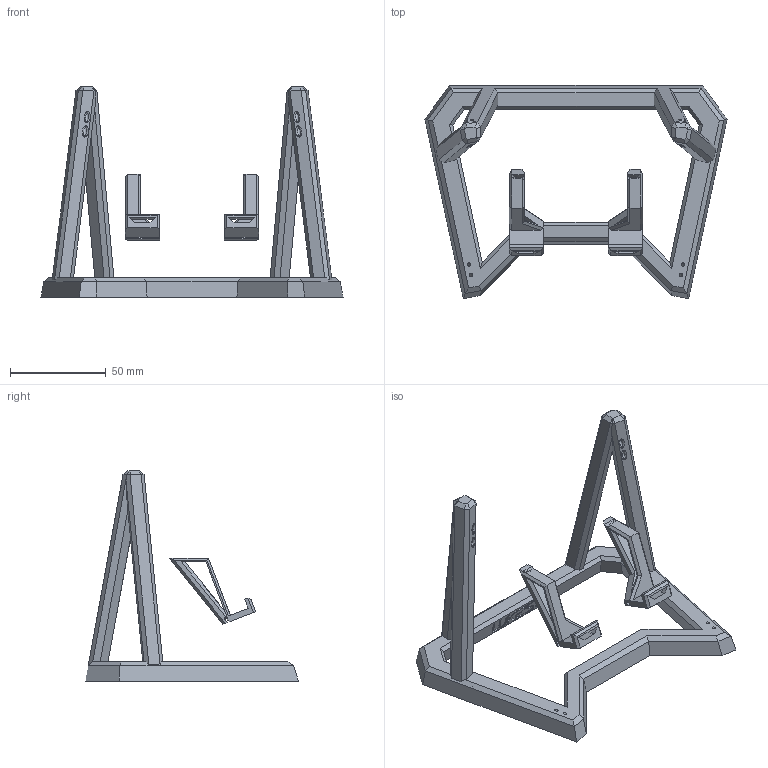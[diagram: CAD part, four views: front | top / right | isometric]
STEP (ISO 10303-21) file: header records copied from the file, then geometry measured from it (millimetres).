
FILE_DESCRIPTION(/* description */ (''),/* implementation_level */ '2;1');
FILE_NAME(/* name */ 'D:/Dokumenty/3D/Luke''s 3D/Projects/Impossible phone stand/STEP/Impossible phone stand.step',/* time_stamp */ '2022-02-20T22:18:16+01:00',/* author */ (''),/* organization */ (''),/* preprocessor_version */ 'ST-DEVELOPER v18.1',/* originating_system */ 'Autodesk Translation Framework v10.10.0.1391',/* authorisation */ '');
FILE_SCHEMA (('AUTOMOTIVE_DESIGN { 1 0 10303 214 3 1 1 }'));
Length unit declared in the file: millimetre
Products named in the file (4): Tensegrity phone stand; Frame; Stand; Tensioner
Assembly tree (3 placements, depth 2):
  Tensegrity phone stand
    Frame
    Stand
    Tensioner
Bounding box: 158.14 x 111.55 x 110 mm (x, y, z)
Volume: 80051.4 mm3; surface area: 43222 mm2
Topology: 7 solids, 7 shells, 487 faces, 1404 edges, 922 vertices
Faces by surface type: plane 371, bspline 80, cylinder 36
Full cylindrical faces by diameter (mm): 1.5 x14
Entity records: 17749 total; most frequent: CARTESIAN_POINT 5394, ORIENTED_EDGE 2808, DIRECTION 2216, EDGE_CURVE 1404, LINE 1124, VECTOR 1124, VERTEX_POINT 922, AXIS2_PLACEMENT_3D 546
